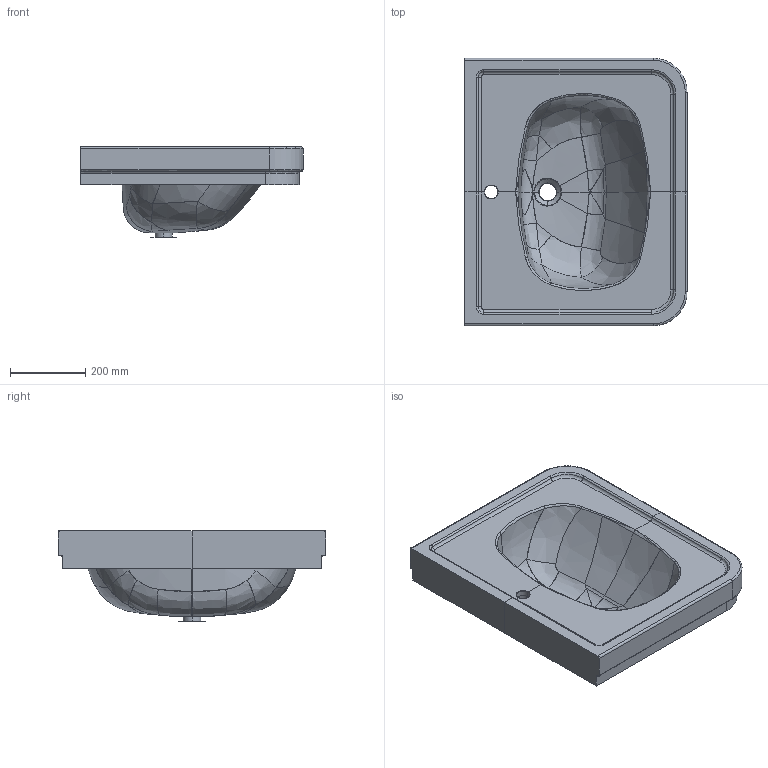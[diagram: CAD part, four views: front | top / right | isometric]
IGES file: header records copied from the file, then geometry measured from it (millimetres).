
Start section: START RECORD GO HERE.
Global section: file name: 8400_Lav Ethos 71.igs; native system: DASSAULT SYSTEMES CATIA V5 R19 - www.3ds.com; preprocessor: CATIA Version 5 Release 19 SP 5 ; author: gioge; organization: LAPTOP-G94B6G74; date: 20200630.144312; units: millimetre
Bounding box: 590 x 710 x 239.5 mm (x, y, z)
Surface area: 1322746.5 mm2 (no closed solid volume)
Topology: 0 solids, 0 shells, 176 faces, 810 edges, 802 vertices
Faces by surface type: bspline 96, revolution 62, plane 18
